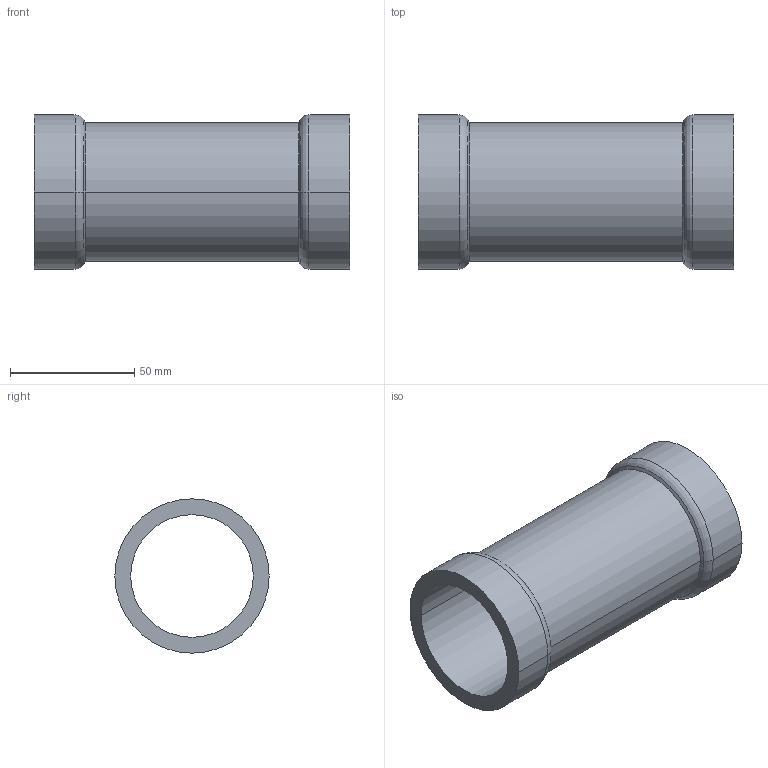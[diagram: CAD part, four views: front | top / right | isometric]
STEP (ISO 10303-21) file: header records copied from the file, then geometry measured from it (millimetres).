
FILE_DESCRIPTION(('Creo Elements/Direct Modeling STEP Export'),'2;1');
FILE_NAME('C9403_1-1-2.stp','2020-06-18T13:55:29',(''),(''),'PTC Creo Elements/Direct Modeling STEP processor for AP214 (Solid Model)','PTC Creo Elements/Direct Modeling 19.0C 15-Aug-2015 (C) Parametric Technology GmbH','');
FILE_SCHEMA(('AUTOMOTIVE_DESIGN { 1 0 10303 214 1 1 1 1 }'));
Length unit declared in the file: millimetre
Products named in the file (1): 9403_1-1-2
Bounding box: 126.8 x 62 x 62 mm (x, y, z)
Volume: 89486.3 mm3; surface area: 45341.8 mm2
Topology: 1 solids, 1 shells, 18 faces, 36 edges, 20 vertices
Faces by surface type: cylinder 8, cone 4, torus 4, plane 2
Entity records: 444 total; most frequent: DIRECTION 78, ORIENTED_EDGE 72, CARTESIAN_POINT 65, EDGE_CURVE 36, AXIS2_PLACEMENT_3D 33, VERTEX_POINT 20, EDGE_LOOP 20, FACE_OUTER_BOUND 18
